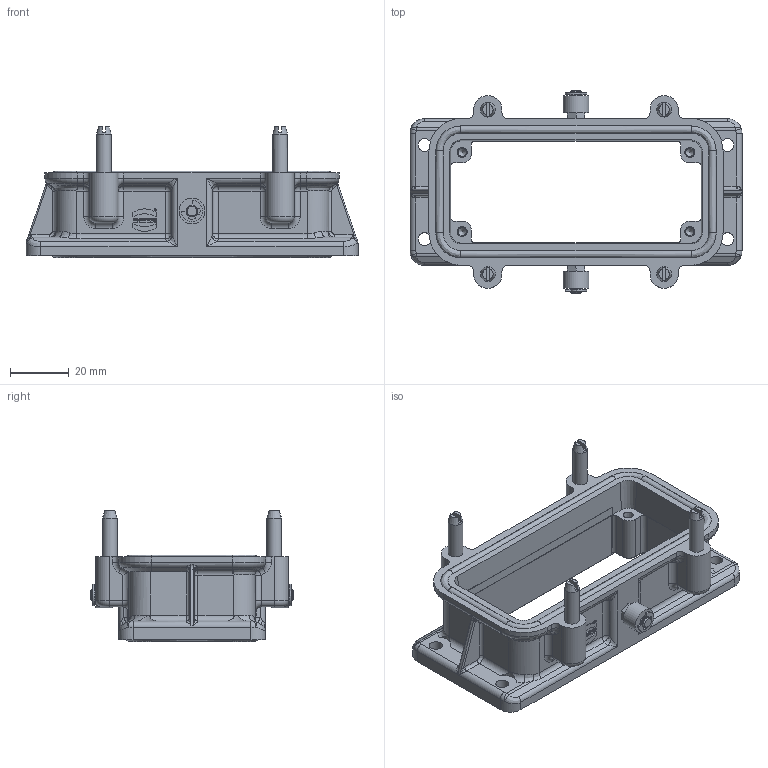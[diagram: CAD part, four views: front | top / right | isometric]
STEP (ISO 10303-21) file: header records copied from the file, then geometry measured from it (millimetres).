
FILE_DESCRIPTION(/* description */ (''),/* implementation_level */ '2;1');
FILE_NAME(/* name */ '100194959ugm000_e.stp',/* time_stamp */ '2022-03-11T16:18:59+01:00',/* author */ (''),/* organization */ (''),/* preprocessor_version */ 'ST-DEVELOPER v16.7',/* originating_system */ 'SIEMENS PLM Software NX 1911',/* authorisation */ '');
FILE_SCHEMA (('AUTOMOTIVE_DESIGN { 1 0 10303 214 3 1 1 1 }'));
Length unit declared in the file: millimetre
Products named in the file (1): 100194959ugm000_e
Bounding box: 113 x 69.2 x 44.62 mm (x, y, z)
Volume: 53810.3 mm3; surface area: 30700 mm2
Topology: 1 solids, 1 shells, 677 faces, 1718 edges, 1028 vertices
Faces by surface type: plane 276, cylinder 218, bspline 88, torus 48, cone 22, sphere 19, extrusion 6
Full cylindrical faces by diameter (mm): 0.537 x1, 0.788 x1, 2.8 x4, 4 x4, 4.4 x4, 5 x4, 8.8 x2
Entity records: 28209 total; most frequent: CARTESIAN_POINT 7698, DIRECTION 3331, ORIENTED_EDGE 3230, EDGE_CURVE 1615, AXIS2_PLACEMENT_3D 1242, VERTEX_POINT 1001, VECTOR 847, LINE 841
